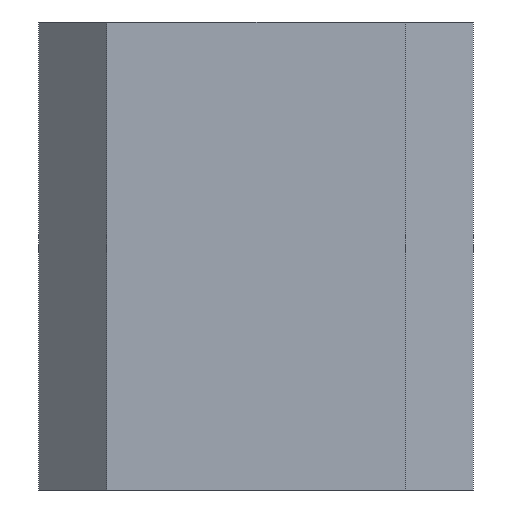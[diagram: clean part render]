
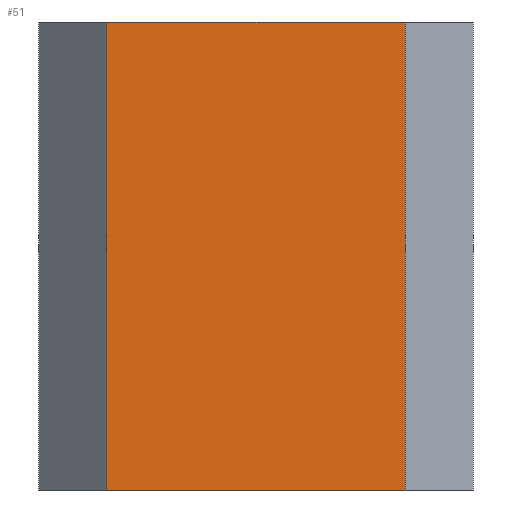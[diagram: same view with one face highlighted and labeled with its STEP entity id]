
A CAD part, left-side view. The second image highlights one B-rep face of the part: STEP entity #51.
In plain terms, the highlighted planar face has unit normal (-1, 0, 0).
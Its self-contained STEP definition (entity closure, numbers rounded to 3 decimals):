
#19=DIRECTION('',(0.0,1.0,0.0));
#20=VECTOR('',#19,4.4);
#21=CARTESIAN_POINT('',(-4.3,-2.2,6.9));
#22=LINE('',#21,#20);
#23=VERTEX_POINT('',#21);
#24=CARTESIAN_POINT('',(-4.3,2.2,6.9));
#25=VERTEX_POINT('',#24);
#26=EDGE_CURVE('',#23,#25,#22,.T.);
#27=ORIENTED_EDGE('',*,*,#26,.T.);
#28=DIRECTION('',(0.0,0.0,-1.0));
#29=VECTOR('',#28,6.9);
#30=LINE('',#24,#29);
#31=CARTESIAN_POINT('',(-4.3,2.2,0.0));
#32=VERTEX_POINT('',#31);
#33=EDGE_CURVE('',#25,#32,#30,.T.);
#34=ORIENTED_EDGE('',*,*,#33,.T.);
#35=DIRECTION('',(0.0,-1.0,0.0));
#36=VECTOR('',#35,4.4);
#37=LINE('',#31,#36);
#38=CARTESIAN_POINT('',(-4.3,-2.2,0.0));
#39=VERTEX_POINT('',#38);
#40=EDGE_CURVE('',#32,#39,#37,.T.);
#41=ORIENTED_EDGE('',*,*,#40,.T.);
#42=VECTOR('',#28,6.9);
#43=LINE('',#21,#42);
#44=EDGE_CURVE('',#23,#39,#43,.T.);
#45=ORIENTED_EDGE('',*,*,#44,.F.);
#46=EDGE_LOOP('',(#27,#34,#41,#45));
#47=FACE_OUTER_BOUND('',#46,.T.);
#48=DIRECTION('',(-1.0,0.0,0.0));
#49=AXIS2_PLACEMENT_3D('',#21,#48,#19);
#50=PLANE('',#49);
#51=ADVANCED_FACE('',(#47),#50,.T.);
